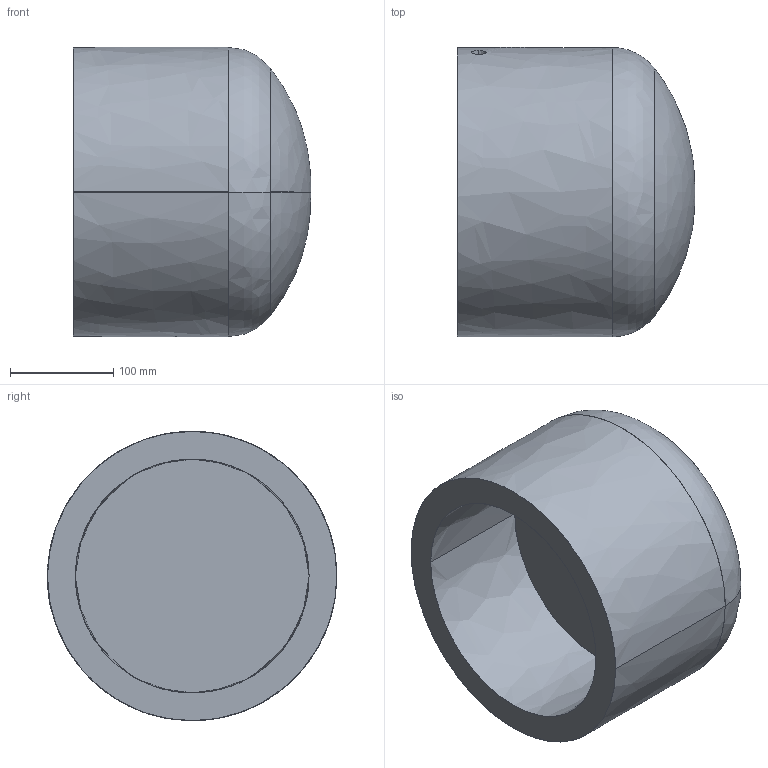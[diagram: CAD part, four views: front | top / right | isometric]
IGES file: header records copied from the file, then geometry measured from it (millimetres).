
Start section:  PTC IGES file: mv_d225.igs
Global section: file name: mv_d225.igs; native system: Pro/ENGINEER by Parametric Technology Corporation; preprocessor: 2006140; author: muellerc; organization: Unknown; date: 20060803.101900; units: millimetre
Bounding box: 230.09 x 280.35 x 280 mm (x, y, z)
Surface area: 366551.4 mm2 (no closed solid volume)
Topology: 0 solids, 0 shells, 64 faces, 349 edges, 354 vertices
Faces by surface type: bspline 64
